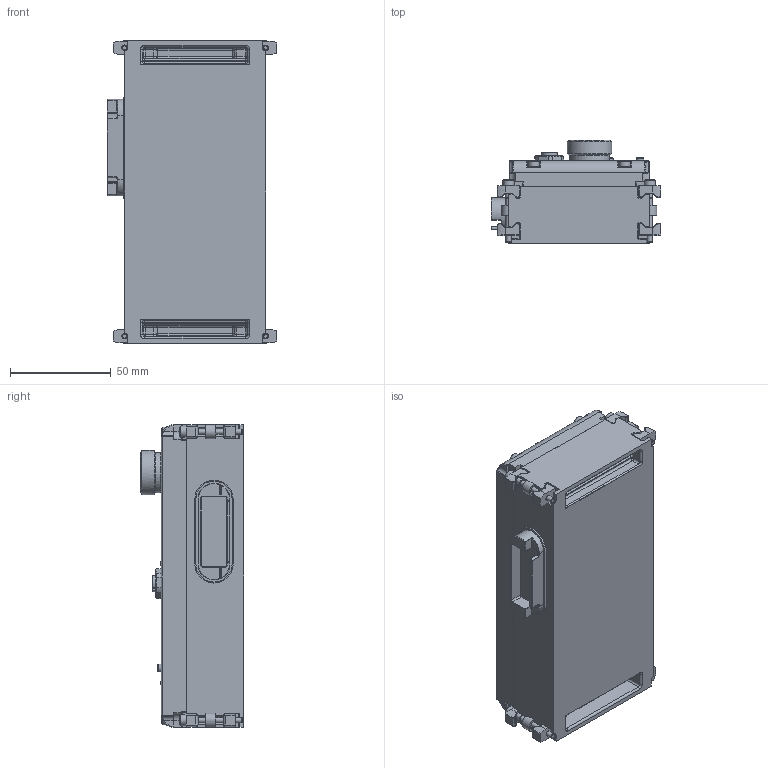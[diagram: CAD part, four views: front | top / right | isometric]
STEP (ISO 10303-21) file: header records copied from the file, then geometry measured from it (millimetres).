
FILE_DESCRIPTION (( 'STEP AP214' ), '1' );
FILE_NAME ('MIO67A-CM-EN-01.STEP', '2019-07-11T14:46:27', ( 'user' ), ( '' ), 'SwSTEP 2.0', 'SolidWorks 2014', '' );
FILE_SCHEMA (( 'AUTOMOTIVE_DESIGN' ));
Length unit declared in the file: millimetre
Products named in the file (4): MIO67A-COVER-EN; MIO67A-CONN-01; MIO67A-BASE-CM; MIO67A-CM-EN-01
Assembly tree (3 placements, depth 2):
  MIO67A-CM-EN-01
    MIO67A-BASE-CM
    MIO67A-CONN-01
    MIO67A-COVER-EN
Bounding box: 84.1 x 51.2 x 150 mm (x, y, z)
Volume: 400174.1 mm3; surface area: 84620.3 mm2
Topology: 29 solids, 30 shells, 1711 faces, 4837 edges, 3357 vertices
Faces by surface type: plane 709, cylinder 560, torus 155, bspline 145, cone 97, sphere 45
Full cylindrical faces by diameter (mm): 1.15 x8, 2 x5, 2.2 x2, 2.395 x7, 2.6 x8, 2.78 x5, 3 x7, 3.2 x1, 3.325 x7, 3.5 x11, 3.8 x2, 4.5 x2, 4.65 x8, 4.7 x4, 5.5 x10, 11.035 x2, 11.14 x1, 13.6 x2, 18.15 x1, 19.8 x1, 21.275 x1, 22.068 x1, 23 x1
Entity records: 80038 total; most frequent: CARTESIAN_POINT 18622, ORIENTED_EDGE 9024, DIRECTION 8201, EDGE_CURVE 4512, VERTEX_POINT 3274, AXIS2_PLACEMENT_3D 2976, LINE 2249, VECTOR 2249
